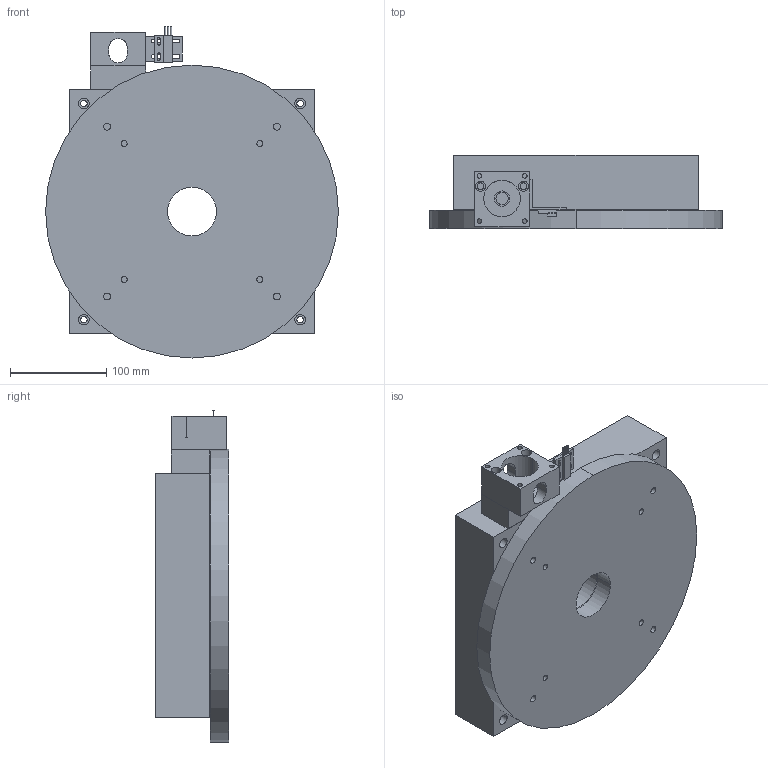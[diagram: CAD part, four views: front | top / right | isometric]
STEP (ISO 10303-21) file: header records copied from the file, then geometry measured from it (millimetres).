
FILE_DESCRIPTION((''),'2;1');
FILE_NAME('M212-ROTARY_ASM','2005-02-18T',('BF20108'),(''),'PRO/ENGINEER BY PARAMETRIC TECHNOLOGY CORPORATION, 2004400','PRO/ENGINEER BY PARAMETRIC TECHNOLOGY CORPORATION, 2004400','');
FILE_SCHEMA(('CONFIG_CONTROL_DESIGN'));
Length unit declared in the file: inch
Products named in the file (8): M10RO-BASE; M12RO-TOP; SPACER-270; E-0176-01; 000-4457-SW-BRKT; 003-1145-SWITCH; ROTARY-TBL-HOME-SW_ASM; M212-ROTARY_ASM
Assembly tree (7 placements, depth 3):
  M212-ROTARY_ASM
    M10RO-BASE
    M12RO-TOP
    SPACER-270
    E-0176-01
    ROTARY-TBL-HOME-SW_ASM
      000-4457-SW-BRKT
      003-1145-SWITCH
Bounding box: 304.8 x 76.2 x 345.53 mm (x, y, z)
Volume: 4973024.4 mm3; surface area: 401820 mm2
Topology: 6 solids, 6 shells, 155 faces, 400 edges, 266 vertices
Faces by surface type: cylinder 90, plane 65
Entity records: 5222 total; most frequent: DIRECTION 916, CARTESIAN_POINT 914, ORIENTED_EDGE 800, EDGE_CURVE 400, AXIS2_PLACEMENT_3D 350, VERTEX_POINT 266, EDGE_LOOP 230, VECTOR 216
